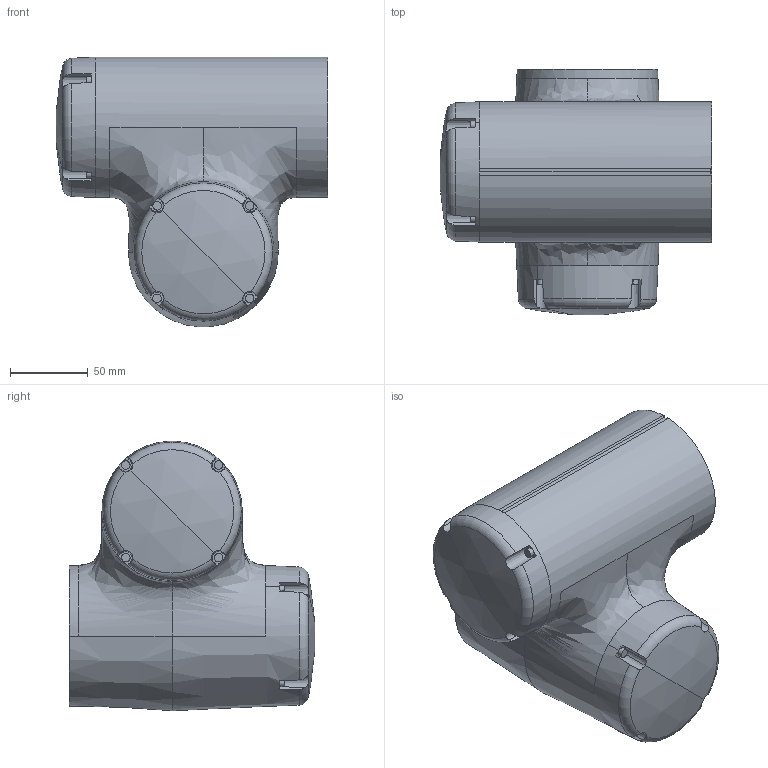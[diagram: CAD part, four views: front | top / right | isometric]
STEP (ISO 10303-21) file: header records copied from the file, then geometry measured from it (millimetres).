
FILE_DESCRIPTION (( 'STEP AP214' ), '1' );
FILE_NAME ('CRB1910_10kg-1520_OmniCore_rev00_Link5.step', '2026-03-26T03:33:28', ( '' ), ( '' ), 'SwSTEP 2.0', 'SolidWorks 2022', '' );
FILE_SCHEMA (( 'AUTOMOTIVE_DESIGN' ));
Length unit declared in the file: millimetre
Products named in the file (1): CRB1910_10kg-1520_OmniCore_rev00_Link5
Bounding box: 174.42 x 157.52 x 172.92 mm (x, y, z)
Volume: 2172184.2 mm3; surface area: 105871.4 mm2
Topology: 1 solids, 1 shells, 105 faces, 277 edges, 182 vertices
Faces by surface type: plane 50, cylinder 23, cone 16, torus 8, sphere 4, bspline 4
Entity records: 10956 total; most frequent: CARTESIAN_POINT 8408, ORIENTED_EDGE 554, DIRECTION 492, EDGE_CURVE 277, AXIS2_PLACEMENT_3D 200, VERTEX_POINT 182, EDGE_LOOP 113, ADVANCED_FACE 105
